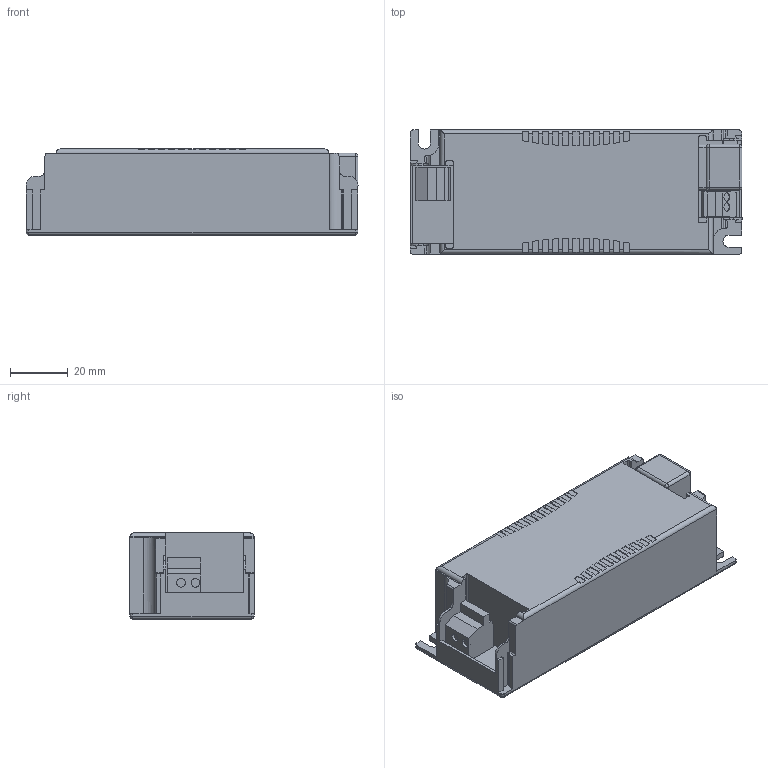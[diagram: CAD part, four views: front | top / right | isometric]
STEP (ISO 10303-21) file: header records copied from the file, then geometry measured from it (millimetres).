
FILE_DESCRIPTION((''),'2;1');
FILE_NAME('0002745366','2016-02-01T',('elon.guo'),(''),'PRO/ENGINEER BY PARAMETRIC TECHNOLOGY CORPORATION, 2015200','PRO/ENGINEER BY PARAMETRIC TECHNOLOGY CORPORATION, 2015200','');
FILE_SCHEMA(('AUTOMOTIVE_DESIGN { 1 0 10303 214 1 1 1 1 }'));
Length unit declared in the file: millimetre
Products named in the file (1): 0002745366
Bounding box: 115 x 43 x 29.8 mm (x, y, z)
Volume: 129135.2 mm3; surface area: 21913 mm2
Topology: 1 solids, 4 shells, 311 faces, 864 edges, 567 vertices
Faces by surface type: plane 190, cylinder 113, sphere 8
Entity records: 13270 total; most frequent: CARTESIAN_POINT 1849, ORIENTED_EDGE 1728, DIRECTION 1725, PRESENTATION_STYLE_ASSIGNMENT 886, STYLED_ITEM 865, CURVE_STYLE 864, EDGE_CURVE 864, VECTOR 591
